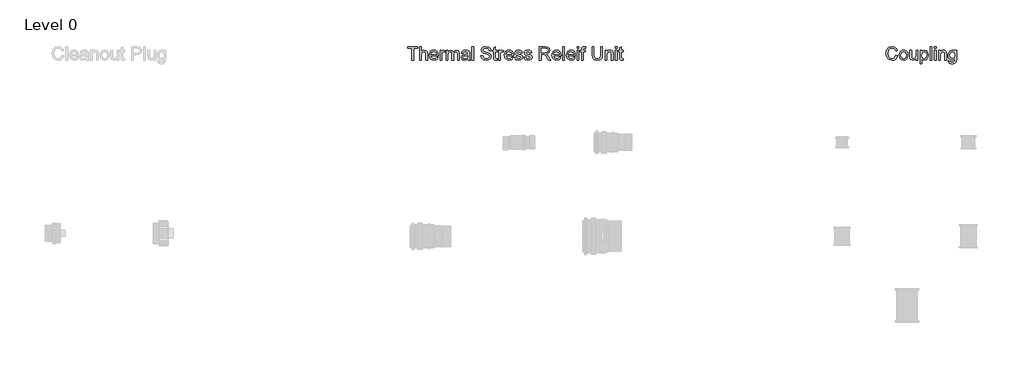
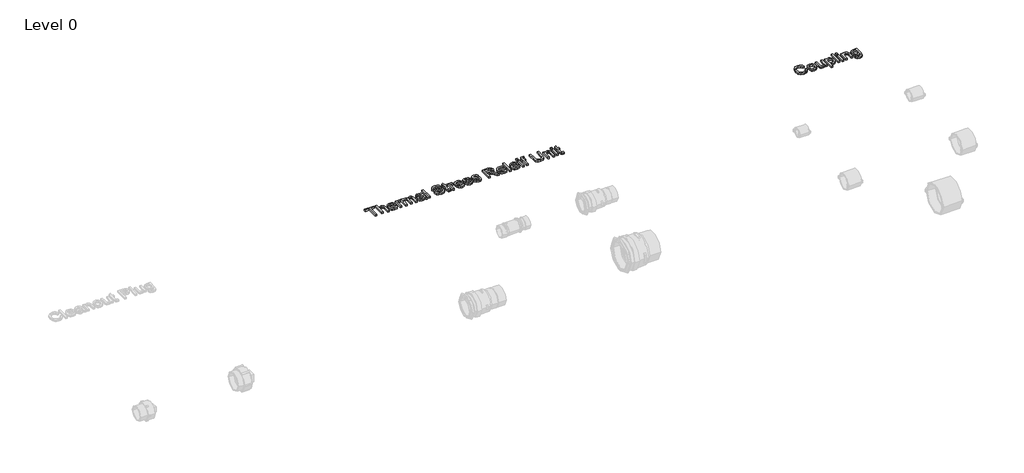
# One storey, part 10 of 10: 2 proxies.
"""IFC4 building model written with IfcOpenShell, lengths in millimetres."""

from ifc_helpers import new_model, si_unit, origin, origin_with_axes, place, context, project, spatial, polyline, outline, extrude, element, save

model = new_model("IFC4")

# Units and contexts
model_context = context("Model", 3, world=origin())
ifc_project = project(units=[si_unit("LENGTHUNIT", "METRE", prefix="MILLI")], contexts=[model_context])

# Site, building, storey
site = spatial("IfcSite", under=ifc_project)
building = spatial("IfcBuilding", under=site)
storey = spatial("IfcBuildingStorey", under=building, Name="Level 0", Elevation=0.0)

# Proxies
placement = place(None, origin())
element("IfcBuildingElementProxy", 1, Name="75mm Arial", ObjectType="75mm Arial", at=placement, inside=storey, context=model_context, shape_type="SweptSolid", body=[
    extrude(outline(polyline([(4073.1690508, 5632.8743175), (4082.39982, 5630.4945098), (4078.1405051, 5619.7380494), (4071.4563104, 5611.8797261), (4062.6762623, 5607.072785), (4052.1293873, 5605.4704713), (4032.9196517, 5610.3202309), (4021.6516229, 5624.3647021), (4017.7844354, 5644.1062886), (4022.1564306, 5664.1723944), (4034.58732, 5677.1802069), (4052.3277046, 5681.6243175), (4062.4486481, 5680.186517), (4070.8162863, 5675.8731155), (4077.169201, 5668.9500386), (4081.2459738, 5659.6832117), (4072.0152046, 5657.4836925), (4064.4430892, 5668.8328511), (4051.9671277, 5672.3935482), (4037.5260219, 5668.4452309), (4029.367969, 5657.8442694), (4027.0152046, 5644.1243175), (4029.8006613, 5628.2228752), (4038.4725363, 5618.0636203), (4051.2099161, 5614.7012405), (4065.3355171, 5619.2805675), (4073.1690508, 5632.8743175)])), origin_with_axes(), (0.0, 0.0, 1.0), 10.0),
    extrude(outline(polyline([(4091.6305892, 5633.7397021), (4093.6272839, 5646.8151228), (4099.6173681, 5656.0053271), (4107.0182094, 5660.5080314), (4115.8793873, 5662.0089328), (4125.5766529, 5660.1812586), (4133.3222959, 5654.6982357), (4138.3996697, 5645.9925566), (4140.0921277, 5634.4969136), (4137.0993392, 5618.0726348), (4128.3823921, 5608.7787646), (4115.8793873, 5605.4704713), (4106.0649342, 5607.2913848), (4098.3283056, 5612.7541252), (4093.3050183, 5621.6423463), (4091.6305892, 5633.7397021)]), holes=[polyline([(4100.8613584, 5633.7577309), (4105.134195, 5619.4518415), (4115.8793873, 5614.7012405), (4126.5885219, 5619.4788848), (4130.8613584, 5634.0461925), (4126.5614786, 5648.0275627), (4115.8793873, 5652.7781636), (4105.134195, 5648.0455915), (4100.8613584, 5633.7577309)])]), origin_with_axes(), (0.0, 0.0, 1.0), 10.0),
    extrude(outline(polyline([(4185.0921277, 5606.6243175), (4185.0921277, 5615.9452309), (4177.8625604, 5608.0891612), (4168.4334738, 5605.4704713), (4159.7525844, 5607.3094136), (4153.7670075, 5611.9247982), (4151.0176084, 5618.7216732), (4150.4767431, 5627.303404), (4150.4767431, 5660.8550867), (4159.7075123, 5660.8550867), (4159.7075123, 5631.6483559), (4160.2664065, 5622.2372982), (4163.9172479, 5616.7114569), (4170.7952527, 5614.7012405), (4178.5025844, 5616.756529), (4183.5957334, 5622.3544857), (4185.0921277, 5632.6399425), (4185.0921277, 5660.8550867), (4194.3228969, 5660.8550867), (4194.3228969, 5606.6243175), (4185.0921277, 5606.6243175)])), origin_with_axes(), (0.0, 0.0, 1.0), 10.0),
    extrude(outline(polyline([(4207.0152046, 5585.8550867), (4207.0152046, 5660.8550867), (4216.2459738, 5660.8550867), (4216.2459738, 5651.8046059), (4222.6281854, 5659.4578511), (4231.2459738, 5662.0089328), (4242.946695, 5658.4392213), (4250.5909258, 5648.3791252), (4253.1690508, 5634.1543655), (4250.2573921, 5619.1994377), (4241.8018633, 5609.0131396), (4230.1281854, 5605.4704713), (4222.0963344, 5607.8412646), (4216.2459738, 5613.8358559), (4216.2459738, 5585.8550867), (4207.0152046, 5585.8550867)]), holes=[polyline([(4216.2459738, 5633.3070098), (4220.2393633, 5619.2445098), (4229.9298681, 5614.7012405), (4239.8186902, 5619.4067694), (4243.9382815, 5633.9921059), (4239.9178488, 5648.0906636), (4230.3084738, 5652.7781636), (4220.5097959, 5647.7931877), (4216.2459738, 5633.3070098)])]), origin_with_axes(), (0.0, 0.0, 1.0), 10.0),
    extrude(outline(polyline([(4263.5536661, 5606.6243175), (4263.5536661, 5680.4704713), (4272.7844354, 5680.4704713), (4272.7844354, 5606.6243175), (4263.5536661, 5606.6243175)])), origin_with_axes(), (0.0, 0.0, 1.0), 10.0),
    extrude(outline(polyline([(4286.6305892, 5671.2397021), (4286.6305892, 5680.4704713), (4295.8613584, 5680.4704713), (4295.8613584, 5671.2397021), (4286.6305892, 5671.2397021)])), origin_with_axes(), (0.0, 0.0, 1.0), 10.0),
    extrude(outline(polyline([(4286.6305892, 5606.6243175), (4286.6305892, 5660.8550867), (4295.8613584, 5660.8550867), (4295.8613584, 5606.6243175), (4286.6305892, 5606.6243175)])), origin_with_axes(), (0.0, 0.0, 1.0), 10.0),
    extrude(outline(polyline([(4309.7075123, 5606.6243175), (4309.7075123, 5660.8550867), (4318.9382815, 5660.8550867), (4318.9382815, 5653.2829713), (4325.9965748, 5659.8274425), (4335.6329931, 5662.0089328), (4344.3499402, 5660.2511203), (4350.2994594, 5655.6357357), (4353.0668873, 5648.8478752), (4353.5536661, 5639.9235963), (4353.5536661, 5606.6243175), (4344.3228969, 5606.6243175), (4344.3228969, 5638.6796059), (4343.259195, 5646.8466732), (4339.5001806, 5651.1645819), (4333.1630411, 5652.7781636), (4323.1480171, 5649.1543655), (4318.9382815, 5635.3983559), (4318.9382815, 5606.6243175), (4309.7075123, 5606.6243175)])), origin_with_axes(), (0.0, 0.0, 1.0), 10.0),
    extrude(outline(polyline([(4363.9382815, 5602.0089328), (4373.1690508, 5600.8550867), (4376.1618392, 5595.9872982), (4385.1221758, 5593.9320098), (4394.5692911, 5596.2577309), (4399.0765027, 5602.7841732), (4399.7075123, 5613.5473944), (4393.2081133, 5608.3550867), (4385.2844354, 5606.6243175), (4375.7674582, 5608.639041), (4368.6708536, 5614.6832117), (4364.2560399, 5623.5443896), (4362.7844354, 5634.0101348), (4365.4256613, 5648.3160242), (4373.0698921, 5658.4392213), (4384.8337142, 5662.0089328), (4393.0683897, 5659.9897021), (4399.7075123, 5653.9320098), (4399.7075123, 5660.8550867), (4408.9382815, 5660.8550867), (4408.9382815, 5614.0341732), (4406.4142431, 5596.1044857), (4398.4184498, 5587.7661444), (4384.9418873, 5584.7012405), (4369.5903248, 5589.0191492), (4365.2521337, 5594.4255494), (4363.9382815, 5602.0089328)]), holes=[polyline([(4372.0152046, 5634.6411444), (4375.9545075, 5620.3532838), (4385.8433296, 5615.8550867), (4395.7141229, 5620.3262405), (4399.7075123, 5634.3707117), (4395.5969354, 5648.1357357), (4385.6990988, 5652.7781636), (4376.008594, 5648.2078511), (4372.0152046, 5634.6411444)])]), origin_with_axes(), (0.0, 0.0, 1.0), 10.0),
])
element("IfcBuildingElementProxy", 2, Name="75mm Arial", ObjectType="75mm Arial", at=placement, inside=storey, context=model_context, shape_type="SweptSolid", body=[
    extrude(outline(polyline([(1391.6305892, 5606.6243175), (1391.6305892, 5671.2397021), (1367.39982, 5671.2397021), (1367.39982, 5680.4704713), (1425.0921277, 5680.4704713), (1425.0921277, 5671.2397021), (1400.8613584, 5671.2397021), (1400.8613584, 5606.6243175), (1391.6305892, 5606.6243175)])), origin_with_axes(), (0.0, 0.0, 1.0), 10.0),
    extrude(outline(polyline([(1434.3228969, 5606.6243175), (1434.3228969, 5680.4704713), (1443.5536661, 5680.4704713), (1443.5536661, 5653.319029), (1450.751683, 5659.8364569), (1459.6173681, 5662.0089328), (1469.9839546, 5659.6381396), (1476.2760219, 5653.084654), (1478.1690508, 5640.9512405), (1478.1690508, 5606.6243175), (1468.9382815, 5606.6243175), (1468.9382815, 5639.9957117), (1465.9995796, 5649.7312886), (1457.6702527, 5652.7781636), (1450.1071517, 5650.7228752), (1445.0590748, 5645.1519617), (1443.5536661, 5635.4344136), (1443.5536661, 5606.6243175), (1434.3228969, 5606.6243175)])), origin_with_axes(), (0.0, 0.0, 1.0), 10.0),
    extrude(outline(polyline([(1528.8301084, 5622.7781636), (1537.8805892, 5621.6243175), (1529.4160459, 5609.7072502), (1513.64982, 5605.4704713), (1502.8189907, 5607.2981456), (1494.4851565, 5612.7811684), (1489.1711541, 5621.5634701), (1487.39982, 5633.2889809), (1489.189183, 5645.4088728), (1494.5572719, 5654.4728752), (1502.7784258, 5660.1249184), (1513.1269834, 5662.0089328), (1523.1532755, 5660.1294256), (1531.164844, 5654.490904), (1536.4179991, 5645.4449304), (1538.1690508, 5633.3430675), (1538.1149642, 5630.8550867), (1496.6305892, 5630.8550867), (1501.9400844, 5618.865904), (1513.8301084, 5614.7012405), (1522.8805892, 5616.6303271), (1528.8301084, 5622.7781636)]), holes=[polyline([(1496.6305892, 5640.0858559), (1528.9382815, 5640.0858559), (1525.2423681, 5648.4512405), (1513.0909258, 5652.7781636), (1501.7237383, 5649.3256396), (1496.6305892, 5640.0858559)])]), origin_with_axes(), (0.0, 0.0, 1.0), 10.0),
    extrude(outline(polyline([(1547.39982, 5606.6243175), (1547.39982, 5660.8550867), (1555.4767431, 5660.8550867), (1555.4767431, 5652.8322502), (1561.2099161, 5660.2240771), (1566.9791469, 5662.0089328), (1576.2459738, 5659.1603752), (1573.1630411, 5650.8851348), (1566.6726565, 5652.7781636), (1561.4533056, 5650.9572502), (1558.1269834, 5645.9091732), (1556.6305892, 5635.1279232), (1556.6305892, 5606.6243175), (1547.39982, 5606.6243175)])), origin_with_axes(), (0.0, 0.0, 1.0), 10.0),
    extrude(outline(polyline([(1582.0152046, 5606.6243175), (1582.0152046, 5660.8550867), (1591.2459738, 5660.8550867), (1591.2459738, 5651.9308078), (1597.5921277, 5659.241505), (1606.6245796, 5662.0089328), (1615.8733777, 5659.1874184), (1620.9575123, 5651.2817694), (1628.1600363, 5659.327142), (1637.2555892, 5662.0089328), (1649.3259017, 5657.5467934), (1653.5536661, 5643.7997982), (1653.5536661, 5606.6243175), (1644.3228969, 5606.6243175), (1644.3228969, 5639.8334521), (1643.4665267, 5647.5407838), (1640.3655652, 5651.3358559), (1635.0921277, 5652.7781636), (1626.0146036, 5649.0822502), (1622.39982, 5637.2372982), (1622.39982, 5606.6243175), (1613.1690508, 5606.6243175), (1613.1690508, 5640.8610963), (1611.0326325, 5649.803404), (1604.0284258, 5652.7781636), (1597.1954931, 5650.7949905), (1592.6522238, 5644.9897021), (1591.2459738, 5633.9740771), (1591.2459738, 5606.6243175), (1582.0152046, 5606.6243175)])), origin_with_axes(), (0.0, 0.0, 1.0), 10.0),
    extrude(outline(polyline([(1702.0152046, 5613.5473944), (1693.0638825, 5607.2913848), (1683.1750604, 5605.4704713), (1669.7706133, 5609.8514809), (1665.0921277, 5621.0473944), (1666.8589546, 5628.3490771), (1671.5013825, 5633.6495578), (1677.9647238, 5636.678404), (1685.9515027, 5638.0666252), (1701.9611181, 5641.2397021), (1702.0152046, 5643.2949905), (1699.4731373, 5650.1098944), (1689.2688104, 5652.7781636), (1679.9298681, 5651.0023223), (1675.4767431, 5644.7012405), (1666.2459738, 5645.8550867), (1670.2393633, 5654.8695098), (1678.2802286, 5660.1519617), (1690.4587142, 5662.0089328), (1701.6456133, 5660.3683078), (1707.9647238, 5656.2487165), (1710.7952527, 5649.9836925), (1711.2459738, 5641.9067694), (1711.2459738, 5630.4223944), (1711.7147238, 5614.3857357), (1713.5536661, 5606.6243175), (1704.3228969, 5606.6243175), (1702.0152046, 5613.5473944)]), holes=[polyline([(1702.0152046, 5632.0089328), (1687.1233777, 5629.178404), (1679.1816709, 5627.6820098), (1675.5849161, 5625.2481155), (1674.3228969, 5621.6964328), (1677.0722959, 5616.7024425), (1685.1402046, 5614.7012405), (1694.4791469, 5616.9097742), (1700.5007815, 5622.2553271), (1701.9611181, 5629.3947502), (1702.0152046, 5632.0089328)])]), origin_with_axes(), (0.0, 0.0, 1.0), 10.0),
    extrude(outline(polyline([(1723.9382815, 5606.6243175), (1723.9382815, 5680.4704713), (1733.1690508, 5680.4704713), (1733.1690508, 5606.6243175), (1723.9382815, 5606.6243175)])), origin_with_axes(), (0.0, 0.0, 1.0), 10.0),
    extrude(outline(polyline([(1773.5536661, 5632.0089328), (1782.7844354, 5632.0089328), (1785.759195, 5622.7691492), (1793.02482, 5616.927803), (1804.0945315, 5614.7012405), (1813.7399642, 5616.3869377), (1819.9689306, 5621.0203511), (1822.0152046, 5627.2132598), (1820.4827527, 5632.9734761), (1814.2087142, 5637.1651828), (1800.7682094, 5640.6898223), (1786.3000604, 5645.2421059), (1778.4484979, 5652.1110963), (1775.8613584, 5661.287779), (1779.0614786, 5671.7354953), (1788.4094354, 5679.1092934), (1802.0933296, 5681.6243175), (1816.696695, 5678.9921059), (1826.4322719, 5671.2577309), (1830.0921277, 5659.7012405), (1820.8613584, 5659.7012405), (1815.6329931, 5669.1844136), (1802.4539065, 5672.3935482), (1789.2387623, 5669.2204713), (1785.0921277, 5661.5582117), (1788.0308296, 5655.1579713), (1803.102945, 5650.0017213), (1819.4370796, 5645.3683078), (1828.3703729, 5637.8863367), (1831.2459738, 5627.4476348), (1827.9376806, 5616.4049665), (1818.4184498, 5608.3460723), (1804.4551084, 5605.4704713), (1787.9677286, 5608.5714328), (1777.5380411, 5617.9103752), (1773.5536661, 5632.0089328)])), origin_with_axes(), (0.0, 0.0, 1.0), 10.0),
    extrude(outline(polyline([(1863.5536661, 5614.3226348), (1864.7075123, 5606.3538848), (1857.8024642, 5605.4704713), (1850.0680892, 5607.0029232), (1846.2099161, 5611.0233559), (1845.0921277, 5621.4981155), (1845.0921277, 5651.6243175), (1838.1690508, 5651.6243175), (1838.1690508, 5660.8550867), (1845.0921277, 5660.8550867), (1845.0921277, 5674.0341732), (1854.3228969, 5679.4608559), (1854.3228969, 5660.8550867), (1863.5536661, 5660.8550867), (1863.5536661, 5651.6243175), (1854.3228969, 5651.6243175), (1854.3228969, 5621.7685482), (1854.8096758, 5617.0089328), (1856.3871998, 5615.3232357), (1859.5332334, 5614.7012405), (1863.5536661, 5614.3226348)])), origin_with_axes(), (0.0, 0.0, 1.0), 10.0),
    extrude(outline(polyline([(1872.7844354, 5606.6243175), (1872.7844354, 5660.8550867), (1880.8613584, 5660.8550867), (1880.8613584, 5652.8322502), (1886.5945315, 5660.2240771), (1892.3637623, 5662.0089328), (1901.6305892, 5659.1603752), (1898.5476565, 5650.8851348), (1892.0572719, 5652.7781636), (1886.8379209, 5650.9572502), (1883.5115988, 5645.9091732), (1882.0152046, 5635.1279232), (1882.0152046, 5606.6243175), (1872.7844354, 5606.6243175)])), origin_with_axes(), (0.0, 0.0, 1.0), 10.0),
    extrude(outline(polyline([(1945.36857, 5622.7781636), (1954.4190508, 5621.6243175), (1945.9545075, 5609.7072502), (1930.1882815, 5605.4704713), (1919.3574522, 5607.2981456), (1911.0236181, 5612.7811684), (1905.7096157, 5621.5634701), (1903.9382815, 5633.2889809), (1905.7276445, 5645.4088728), (1911.0957334, 5654.4728752), (1919.3168873, 5660.1249184), (1929.665445, 5662.0089328), (1939.6917371, 5660.1294256), (1947.7033056, 5654.490904), (1952.9564606, 5645.4449304), (1954.7075123, 5633.3430675), (1954.6534258, 5630.8550867), (1913.1690508, 5630.8550867), (1918.4785459, 5618.865904), (1930.36857, 5614.7012405), (1939.4190508, 5616.6303271), (1945.36857, 5622.7781636)]), holes=[polyline([(1913.1690508, 5640.0858559), (1945.4767431, 5640.0858559), (1941.7808296, 5648.4512405), (1929.6293873, 5652.7781636), (1918.2621998, 5649.3256396), (1913.1690508, 5640.0858559)])]), origin_with_axes(), (0.0, 0.0, 1.0), 10.0),
    extrude(outline(polyline([(1960.4767431, 5622.7781636), (1969.7075123, 5623.9320098), (1973.9803488, 5617.0810482), (1983.7700123, 5614.7012405), (1993.18107, 5616.8827309), (1996.2459738, 5622.0029232), (1993.1630411, 5626.1495578), (1983.6618392, 5628.7817694), (1969.7615988, 5633.2979953), (1963.6948921, 5638.5714328), (1961.6305892, 5646.0173463), (1963.2892431, 5652.8953511), (1967.8144834, 5658.1507598), (1973.6828729, 5660.88213), (1981.6245796, 5662.0089328), (1992.8565508, 5660.1970338), (1999.9959738, 5655.2931877), (2003.1690508, 5647.0089328), (1993.9382815, 5645.8550867), (1990.4677286, 5650.9482357), (1982.3457334, 5652.7781636), (1973.5115988, 5651.0293655), (1970.8613584, 5646.9548463), (1971.9611181, 5644.2685482), (1975.4046277, 5642.2312886), (1983.3553488, 5640.2661444), (1996.9040267, 5635.9211925), (2003.196094, 5630.9993175), (2005.4767431, 5622.9764809), (2002.7994594, 5614.1423463), (1995.0740988, 5607.7330915), (1983.6438104, 5605.4704713), (1967.5440508, 5609.8334521), (1960.4767431, 5622.7781636)])), origin_with_axes(), (0.0, 0.0, 1.0), 10.0),
    extrude(outline(polyline([(2012.39982, 5622.7781636), (2021.6305892, 5623.9320098), (2025.9034258, 5617.0810482), (2035.6930892, 5614.7012405), (2045.1041469, 5616.8827309), (2048.1690508, 5622.0029232), (2045.0861181, 5626.1495578), (2035.5849161, 5628.7817694), (2021.6846758, 5633.2979953), (2015.617969, 5638.5714328), (2013.5536661, 5646.0173463), (2015.21232, 5652.8953511), (2019.7375604, 5658.1507598), (2025.6059498, 5660.88213), (2033.5476565, 5662.0089328), (2044.7796277, 5660.1970338), (2051.9190508, 5655.2931877), (2055.0921277, 5647.0089328), (2045.8613584, 5645.8550867), (2042.3908056, 5650.9482357), (2034.2688104, 5652.7781636), (2025.4346758, 5651.0293655), (2022.7844354, 5646.9548463), (2023.884195, 5644.2685482), (2027.3277046, 5642.2312886), (2035.2784258, 5640.2661444), (2048.8271036, 5635.9211925), (2055.1191709, 5630.9993175), (2057.39982, 5622.9764809), (2054.7225363, 5614.1423463), (2046.9971758, 5607.7330915), (2035.5668873, 5605.4704713), (2019.4671277, 5609.8334521), (2012.39982, 5622.7781636)])), origin_with_axes(), (0.0, 0.0, 1.0), 10.0),
    extrude(outline(polyline([(2097.7844354, 5606.6243175), (2097.7844354, 5680.4704713), (2129.6053488, 5680.4704713), (2144.3799883, 5678.4782838), (2152.4569113, 5671.429005), (2155.4767431, 5660.2601348), (2150.4737383, 5646.9548463), (2135.0140027, 5640.0858559), (2140.2603969, 5636.1375386), (2147.7423681, 5626.6363367), (2160.05607, 5606.6243175), (2149.3289065, 5606.6243175), (2139.7195315, 5621.9308078), (2132.7784258, 5632.0630194), (2127.9016229, 5636.849678), (2123.5115988, 5638.6074905), (2118.1570315, 5638.9320098), (2107.0152046, 5638.9320098), (2107.0152046, 5606.6243175), (2097.7844354, 5606.6243175)]), holes=[polyline([(2107.0152046, 5648.162779), (2127.6762623, 5648.162779), (2138.2141229, 5649.4698703), (2144.1996998, 5653.6525627), (2146.2459738, 5659.9175867), (2142.3427286, 5668.0485963), (2130.0019834, 5671.2397021), (2107.0152046, 5671.2397021), (2107.0152046, 5648.162779)])]), origin_with_axes(), (0.0, 0.0, 1.0), 10.0),
    extrude(outline(polyline([(2208.4454931, 5622.7781636), (2217.4959738, 5621.6243175), (2209.0314306, 5609.7072502), (2193.2652046, 5605.4704713), (2182.4343753, 5607.2981456), (2174.1005411, 5612.7811684), (2168.7865387, 5621.5634701), (2167.0152046, 5633.2889809), (2168.8045676, 5645.4088728), (2174.1726565, 5654.4728752), (2182.3938104, 5660.1249184), (2192.7423681, 5662.0089328), (2202.7686601, 5660.1294256), (2210.7802286, 5654.490904), (2216.0333837, 5645.4449304), (2217.7844354, 5633.3430675), (2217.7303488, 5630.8550867), (2176.2459738, 5630.8550867), (2181.555469, 5618.865904), (2193.4454931, 5614.7012405), (2202.4959738, 5616.6303271), (2208.4454931, 5622.7781636)]), holes=[polyline([(2176.2459738, 5640.0858559), (2208.5536661, 5640.0858559), (2204.8577527, 5648.4512405), (2192.7063104, 5652.7781636), (2181.3391229, 5649.3256396), (2176.2459738, 5640.0858559)])]), origin_with_axes(), (0.0, 0.0, 1.0), 10.0),
    extrude(outline(polyline([(2227.0152046, 5606.6243175), (2227.0152046, 5680.4704713), (2236.2459738, 5680.4704713), (2236.2459738, 5606.6243175), (2227.0152046, 5606.6243175)])), origin_with_axes(), (0.0, 0.0, 1.0), 10.0),
    extrude(outline(polyline([(2288.0608777, 5622.7781636), (2297.1113584, 5621.6243175), (2288.6468152, 5609.7072502), (2272.8805892, 5605.4704713), (2262.0497599, 5607.2981456), (2253.7159258, 5612.7811684), (2248.4019233, 5621.5634701), (2246.6305892, 5633.2889809), (2248.4199522, 5645.4088728), (2253.7880411, 5654.4728752), (2262.009195, 5660.1249184), (2272.3577527, 5662.0089328), (2282.3840447, 5660.1294256), (2290.3956133, 5654.490904), (2295.6487683, 5645.4449304), (2297.39982, 5633.3430675), (2297.3457334, 5630.8550867), (2255.8613584, 5630.8550867), (2261.1708536, 5618.865904), (2273.0608777, 5614.7012405), (2282.1113584, 5616.6303271), (2288.0608777, 5622.7781636)]), holes=[polyline([(2255.8613584, 5640.0858559), (2288.1690508, 5640.0858559), (2284.4731373, 5648.4512405), (2272.321695, 5652.7781636), (2260.9545075, 5649.3256396), (2255.8613584, 5640.0858559)])]), origin_with_axes(), (0.0, 0.0, 1.0), 10.0),
    extrude(outline(polyline([(2306.6305892, 5606.6243175), (2306.6305892, 5660.8550867), (2315.8613584, 5660.8550867), (2315.8613584, 5606.6243175), (2306.6305892, 5606.6243175)])), origin_with_axes(), (0.0, 0.0, 1.0), 10.0),
    extrude(outline(polyline([(2306.6305892, 5671.2397021), (2306.6305892, 5680.4704713), (2315.8613584, 5680.4704713), (2315.8613584, 5671.2397021), (2306.6305892, 5671.2397021)])), origin_with_axes(), (0.0, 0.0, 1.0), 10.0),
    extrude(outline(polyline([(2332.0152046, 5606.6243175), (2332.0152046, 5651.6243175), (2323.9382815, 5651.6243175), (2323.9382815, 5660.8550867), (2332.0152046, 5660.8550867), (2332.0152046, 5666.3178271), (2332.9887623, 5674.0161444), (2337.71232, 5679.5149425), (2347.0152046, 5681.6243175), (2355.4346758, 5680.6147021), (2354.0825123, 5671.9608559), (2348.7640027, 5672.3935482), (2342.9496998, 5670.8610963), (2341.2459738, 5665.1459521), (2341.2459738, 5660.8550867), (2351.6305892, 5660.8550867), (2351.6305892, 5651.6243175), (2341.2459738, 5651.6243175), (2341.2459738, 5606.6243175), (2332.0152046, 5606.6243175)])), origin_with_axes(), (0.0, 0.0, 1.0), 10.0),
    extrude(outline(polyline([(2438.1690508, 5680.4704713), (2447.39982, 5680.4704713), (2447.39982, 5637.8683078), (2444.8938104, 5620.209053), (2435.8613584, 5609.5720338), (2418.7339546, 5605.4704713), (2401.867969, 5609.0401828), (2392.5109979, 5619.3797261), (2389.7075123, 5637.8683078), (2389.7075123, 5680.4704713), (2398.9382815, 5680.4704713), (2398.9382815, 5638.1928271), (2400.759195, 5624.1213127), (2407.0152046, 5617.1531636), (2417.86857, 5614.7012405), (2427.2570916, 5615.9136804), (2433.4995796, 5619.5510002), (2437.001683, 5626.6363367), (2438.1690508, 5638.1928271), (2438.1690508, 5680.4704713)])), origin_with_axes(), (0.0, 0.0, 1.0), 10.0),
    extrude(outline(polyline([(2462.39982, 5606.6243175), (2462.39982, 5660.8550867), (2471.6305892, 5660.8550867), (2471.6305892, 5653.2829713), (2478.6888825, 5659.8274425), (2488.3253008, 5662.0089328), (2497.0422479, 5660.2511203), (2502.9917671, 5655.6357357), (2505.759195, 5648.8478752), (2506.2459738, 5639.9235963), (2506.2459738, 5606.6243175), (2497.0152046, 5606.6243175), (2497.0152046, 5638.6796059), (2495.9515027, 5646.8466732), (2492.1924883, 5651.1645819), (2485.8553488, 5652.7781636), (2475.8403248, 5649.1543655), (2471.6305892, 5635.3983559), (2471.6305892, 5606.6243175), (2462.39982, 5606.6243175)])), origin_with_axes(), (0.0, 0.0, 1.0), 10.0),
    extrude(outline(polyline([(2518.9382815, 5606.6243175), (2518.9382815, 5660.8550867), (2528.1690508, 5660.8550867), (2528.1690508, 5606.6243175), (2518.9382815, 5606.6243175)])), origin_with_axes(), (0.0, 0.0, 1.0), 10.0),
    extrude(outline(polyline([(2518.9382815, 5671.2397021), (2518.9382815, 5680.4704713), (2528.1690508, 5680.4704713), (2528.1690508, 5671.2397021), (2518.9382815, 5671.2397021)])), origin_with_axes(), (0.0, 0.0, 1.0), 10.0),
    extrude(outline(polyline([(2561.6305892, 5614.3226348), (2562.7844354, 5606.3538848), (2555.8793873, 5605.4704713), (2548.1450123, 5607.0029232), (2544.2868392, 5611.0233559), (2543.1690508, 5621.4981155), (2543.1690508, 5651.6243175), (2536.2459738, 5651.6243175), (2536.2459738, 5660.8550867), (2543.1690508, 5660.8550867), (2543.1690508, 5674.0341732), (2552.39982, 5679.4608559), (2552.39982, 5660.8550867), (2561.6305892, 5660.8550867), (2561.6305892, 5651.6243175), (2552.39982, 5651.6243175), (2552.39982, 5621.7685482), (2552.8865988, 5617.0089328), (2554.4641229, 5615.3232357), (2557.6101565, 5614.7012405), (2561.6305892, 5614.3226348)])), origin_with_axes(), (0.0, 0.0, 1.0), 10.0),
])

save(model, "model.ifc")
